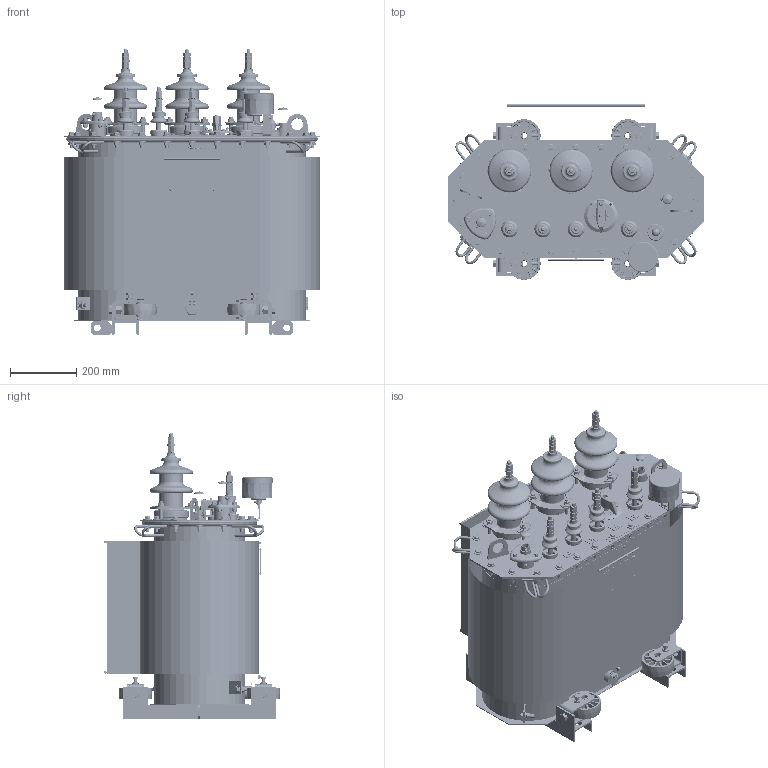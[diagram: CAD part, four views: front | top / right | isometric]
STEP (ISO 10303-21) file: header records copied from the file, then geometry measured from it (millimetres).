
FILE_DESCRIPTION(/* description */ (''),/* implementation_level */ '2;1');
FILE_NAME(/* name */ 'D:\SEARCHWORK\3Д_Модели\ТМГ-25\Серийный\ТМГ-25_10-УХЛ1 10_0,4 Д_Ун-11 (406721330191500).stp',/* time_stamp */ '2026-07-29T14:04:09+03:00',/* author */ ('53122'),/* organization */ (''),/* preprocessor_version */ 'ST-DEVELOPER v18.1',/* originating_system */ 'Autodesk Inventor 2021',/* authorisation */ '');
FILE_SCHEMA (('AUTOMOTIVE_DESIGN { 1 0 10303 214 3 1 1 }'));
Products named in the file (1): ВИЕЛ.672133.019_Shrinkwrap_1
Bounding box: 770 x 529.4 x 858.2 mm (x, y, z)
Volume: 10418260.9 mm3; surface area: 6000383 mm2
Topology: 418 solids, 419 shells, 8045 faces, 18310 edges, 11231 vertices
Faces by surface type: plane 3454, bspline 1575, cylinder 1532, cone 575, torus 459, sphere 450
Full cylindrical faces by diameter (mm): 0.71 x2, 1.5 x4, 1.6 x6, 2 x2, 3 x3, 3.1 x4, 3.2 x4, 3.4 x4, 3.8 x4, 3.96 x2, 4 x5, 4.134 x2, 4.917 x4, 4.95 x2, 5 x8, 5.3 x2, 5.5 x1, 5.94 x5, 6 x23, 6.2 x5, 6.5 x1, 7 x4, 7.1 x2, 7.5 x2, 7.92 x3, 8 x30, 8.5 x7, 9 x3, 9.9 x28, 10 x115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
Entity records: 287121 total; most frequent: CARTESIAN_POINT 109185, ORIENTED_EDGE 36034, DIRECTION 31999, EDGE_CURVE 18023, AXIS2_PLACEMENT_3D 12358, VERTEX_POINT 11229, EDGE_LOOP 9228, STYLED_ITEM 8453
